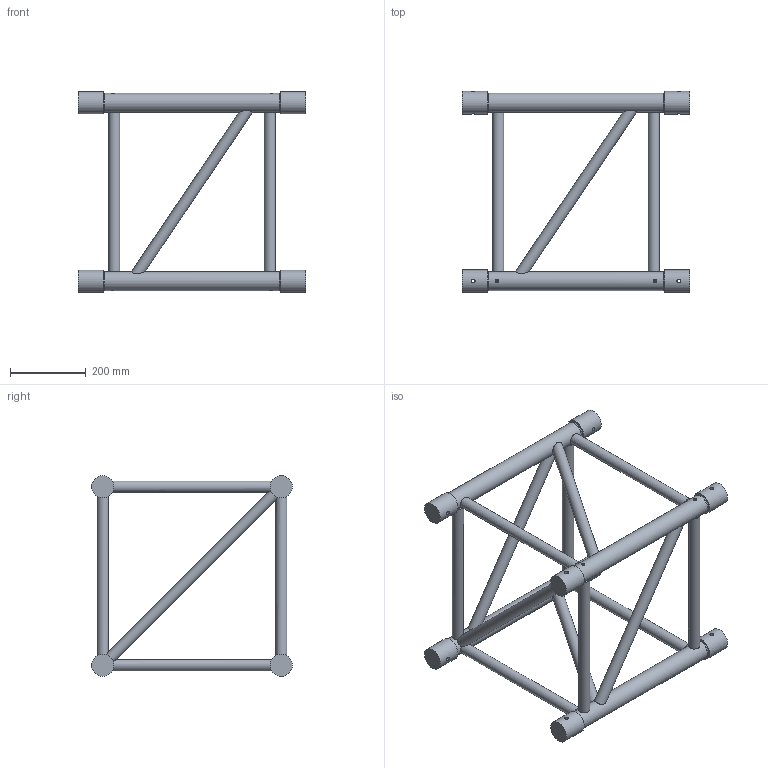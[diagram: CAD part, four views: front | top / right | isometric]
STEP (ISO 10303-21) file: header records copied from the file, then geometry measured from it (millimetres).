
FILE_DESCRIPTION(/* description */ (''),/* implementation_level */ '2;1');
FILE_NAME(/* name */ 'M:\Symbolen_NIEUW\STP\52-er truss\111110100.stp',/* time_stamp */ '2015-04-20T14:20:54+02:00',/* author */ ('Stephan'),/* organization */ (''),/* preprocessor_version */ 'ST-DEVELOPER v15.6',/* originating_system */ 'Autodesk Inventor 2015',/* authorisation */ '');
FILE_SCHEMA (('AUTOMOTIVE_DESIGN { 1 0 10303 214 3 1 1 }'));
Length unit declared in the file: millimetre
Products named in the file (1): 160023901
Bounding box: 600 x 528.8 x 528.8 mm (x, y, z)
Volume: 9745931.2 mm3; surface area: 1065869.6 mm2
Topology: 1 solids, 1 shells, 222 faces, 549 edges, 341 vertices
Faces by surface type: plane 116, cylinder 66, cone 40
Full cylindrical faces by diameter (mm): 10 x8, 30 x14, 50 x4, 58.8 x8
Entity records: 8561 total; most frequent: CARTESIAN_POINT 3087, DIRECTION 1070, ORIENTED_EDGE 1024, EDGE_CURVE 488, AXIS2_PLACEMENT_3D 471, VERTEX_POINT 336, EDGE_LOOP 328, STYLED_ITEM 223
